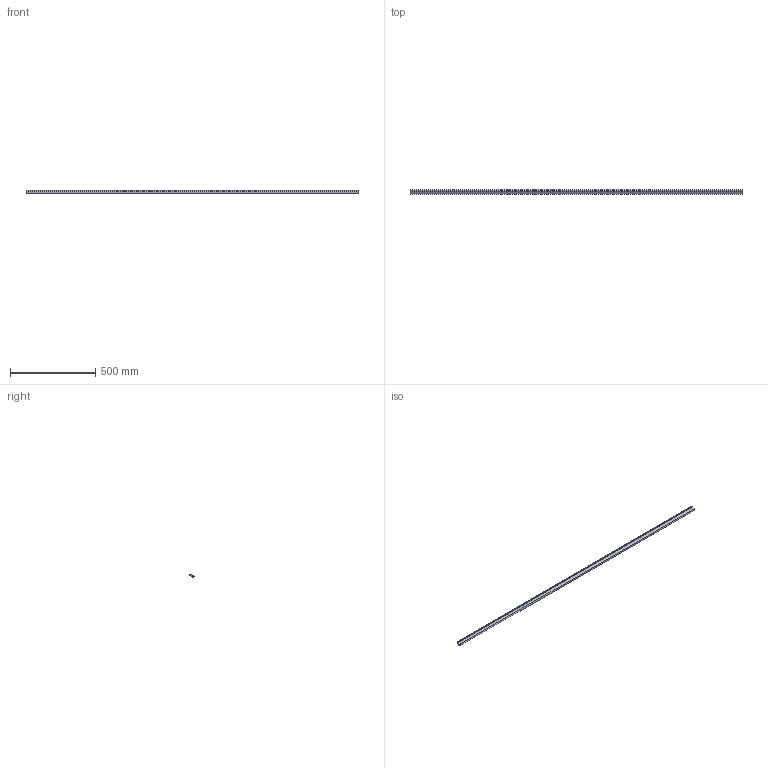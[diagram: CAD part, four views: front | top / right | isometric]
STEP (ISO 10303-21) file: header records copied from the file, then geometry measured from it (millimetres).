
FILE_DESCRIPTION( ( '' ), '1' );
FILE_NAME( 'C:/Documents and Settings/Nikhil/Desktop/Nik/Done/115105.stp', '2013-10-23T08:42:06', ( '' ), ( '' ), ' ', ' ', ' ' );
FILE_SCHEMA( ( 'automotive_design' ) );
Length unit declared in the file: millimetre
Products named in the file (1): 1
Bounding box: 1950 x 24 x 19.77 mm (x, y, z)
Volume: 471244.8 mm3; surface area: 138835.9 mm2
Topology: 1 solids, 1 shells, 30 faces, 66 edges, 44 vertices
Faces by surface type: cylinder 17, plane 13
Entity records: 1658 total; most frequent: DIRECTION 162, STYLED_ITEM 141, PRESENTATION_STYLE_ASSIGNMENT 141, CARTESIAN_POINT 141, COLOUR_RGB 141, ORIENTED_EDGE 132, EDGE_CURVE 66, CURVE_STYLE 66
